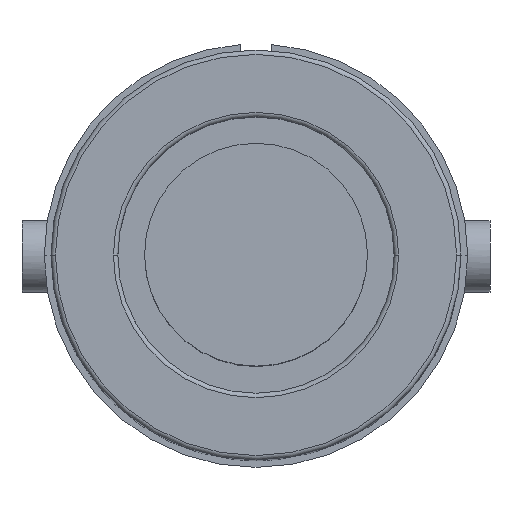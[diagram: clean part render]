
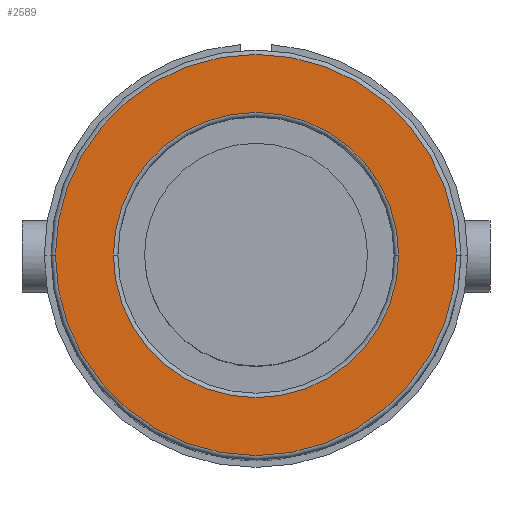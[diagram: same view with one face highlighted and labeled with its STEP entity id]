
A CAD part, top view. The second image highlights one B-rep face of the part: STEP entity #2589.
In plain terms, the highlighted planar face has unit normal (0, 0, 1) as drawn and (0, 0, -1) by its records, which use the part's own axes.
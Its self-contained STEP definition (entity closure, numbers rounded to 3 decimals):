
#11 = EDGE_LOOP ( 'NONE', ( #487, #1623 ) ) ;
#64 = EDGE_LOOP ( 'NONE', ( #4587, #4485 ) ) ;
#196 = DIRECTION ( 'NONE',  ( 0., 0., 1. ) ) ;
#331 = EDGE_CURVE ( 'NONE', #2579, #1453, #3695, .T. ) ;
#487 = ORIENTED_EDGE ( 'NONE', *, *, #3502, .T. ) ;
#591 = AXIS2_PLACEMENT_3D ( 'NONE', #4176, #3332, #5036 ) ;
#636 = AXIS2_PLACEMENT_3D ( 'NONE', #2035, #2008, #4971 ) ;
#881 = AXIS2_PLACEMENT_3D ( 'NONE', #3124, #196, #3971 ) ;
#1081 = CARTESIAN_POINT ( 'NONE',  ( 4.5, 0., 0. ) ) ;
#1097 = AXIS2_PLACEMENT_3D ( 'NONE', #5304, #3110, #2727 ) ;
#1453 = VERTEX_POINT ( 'NONE', #1672 ) ;
#1623 = ORIENTED_EDGE ( 'NONE', *, *, #331, .T. ) ;
#1672 = CARTESIAN_POINT ( 'NONE',  ( 3.2, 0., 0. ) ) ;
#2008 = DIRECTION ( 'NONE',  ( 0., 0., -1. ) ) ;
#2035 = CARTESIAN_POINT ( 'NONE',  ( 0., 0., 0. ) ) ;
#2140 = CARTESIAN_POINT ( 'NONE',  ( 0., 0., 0. ) ) ;
#2352 = PLANE ( 'NONE',  #1097 ) ;
#2579 = VERTEX_POINT ( 'NONE', #4847 ) ;
#2589 = ADVANCED_FACE ( 'NONE', ( #2752, #4061 ), #2352, .F. ) ;
#2716 = CARTESIAN_POINT ( 'NONE',  ( -4.5, 0., 0. ) ) ;
#2727 = DIRECTION ( 'NONE',  ( 1., 0., 0. ) ) ;
#2752 = FACE_OUTER_BOUND ( 'NONE', #64, .T. ) ;
#2961 = CIRCLE ( 'NONE', #591, 4.5 ) ;
#3074 = AXIS2_PLACEMENT_3D ( 'NONE', #2140, #5091, #4590 ) ;
#3110 = DIRECTION ( 'NONE',  ( 0., 0., 1. ) ) ;
#3124 = CARTESIAN_POINT ( 'NONE',  ( 0., 0., 0. ) ) ;
#3251 = VERTEX_POINT ( 'NONE', #1081 ) ;
#3282 = EDGE_CURVE ( 'NONE', #3251, #4282, #3998, .T. ) ;
#3332 = DIRECTION ( 'NONE',  ( 0., 0., -1. ) ) ;
#3502 = EDGE_CURVE ( 'NONE', #1453, #2579, #3817, .T. ) ;
#3695 = CIRCLE ( 'NONE', #3074, 3.2 ) ;
#3764 = EDGE_CURVE ( 'NONE', #4282, #3251, #2961, .T. ) ;
#3817 = CIRCLE ( 'NONE', #881, 3.2 ) ;
#3971 = DIRECTION ( 'NONE',  ( 1., 0., 0. ) ) ;
#3998 = CIRCLE ( 'NONE', #636, 4.5 ) ;
#4061 = FACE_BOUND ( 'NONE', #11, .T. ) ;
#4176 = CARTESIAN_POINT ( 'NONE',  ( 0., 0., 0. ) ) ;
#4282 = VERTEX_POINT ( 'NONE', #2716 ) ;
#4485 = ORIENTED_EDGE ( 'NONE', *, *, #3764, .T. ) ;
#4587 = ORIENTED_EDGE ( 'NONE', *, *, #3282, .T. ) ;
#4590 = DIRECTION ( 'NONE',  ( 1., 0., 0. ) ) ;
#4847 = CARTESIAN_POINT ( 'NONE',  ( -3.2, 0., 0. ) ) ;
#4971 = DIRECTION ( 'NONE',  ( 1., 0., 0. ) ) ;
#5036 = DIRECTION ( 'NONE',  ( 1., 0., 0. ) ) ;
#5091 = DIRECTION ( 'NONE',  ( 0., 0., 1. ) ) ;
#5304 = CARTESIAN_POINT ( 'NONE',  ( 0., 0., 0. ) ) ;
